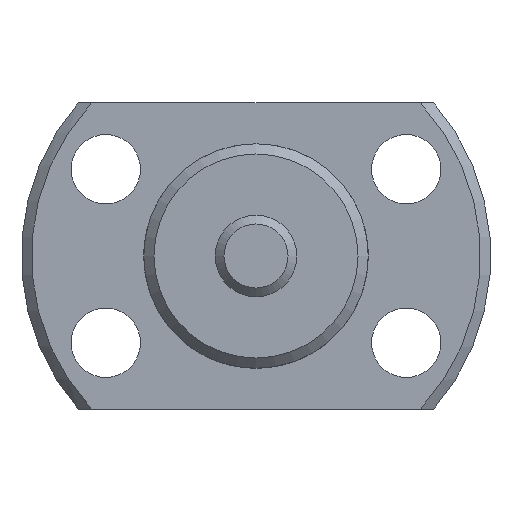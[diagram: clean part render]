
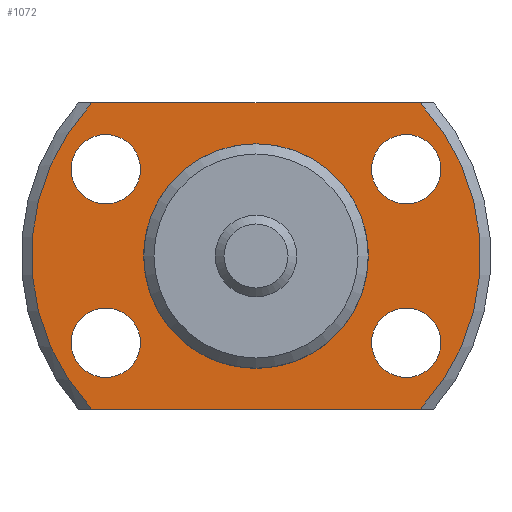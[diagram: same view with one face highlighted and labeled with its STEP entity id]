
A CAD part, left-side view. The second image highlights one B-rep face of the part: STEP entity #1072.
In plain terms, the highlighted planar face has unit normal (-1, 0, 0) as drawn and (1, 0, 0) by its records, which use the part's own axes.
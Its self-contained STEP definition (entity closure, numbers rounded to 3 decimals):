
#85=LINE('',#1852,#151);
#86=LINE('',#1854,#152);
#151=VECTOR('',#1493,1000.);
#152=VECTOR('',#1494,1000.);
#350=ORIENTED_EDGE('',*,*,#592,.T.);
#351=ORIENTED_EDGE('',*,*,#574,.T.);
#352=ORIENTED_EDGE('',*,*,#593,.T.);
#353=ORIENTED_EDGE('',*,*,#594,.T.);
#354=ORIENTED_EDGE('',*,*,#595,.F.);
#355=ORIENTED_EDGE('',*,*,#596,.F.);
#356=ORIENTED_EDGE('',*,*,#597,.F.);
#357=ORIENTED_EDGE('',*,*,#598,.F.);
#358=ORIENTED_EDGE('',*,*,#567,.F.);
#567=EDGE_CURVE('',#695,#695,#771,.T.);
#574=EDGE_CURVE('',#699,#701,#774,.T.);
#592=EDGE_CURVE('',#717,#699,#85,.T.);
#593=EDGE_CURVE('',#701,#718,#86,.T.);
#594=EDGE_CURVE('',#718,#717,#786,.T.);
#595=EDGE_CURVE('',#719,#719,#787,.T.);
#596=EDGE_CURVE('',#720,#720,#788,.T.);
#597=EDGE_CURVE('',#721,#721,#789,.T.);
#598=EDGE_CURVE('',#722,#722,#790,.T.);
#695=VERTEX_POINT('',#1786);
#699=VERTEX_POINT('',#1798);
#701=VERTEX_POINT('',#1805);
#717=VERTEX_POINT('',#1853);
#718=VERTEX_POINT('',#1855);
#719=VERTEX_POINT('',#1858);
#720=VERTEX_POINT('',#1860);
#721=VERTEX_POINT('',#1862);
#722=VERTEX_POINT('',#1864);
#771=CIRCLE('',#1197,5.3);
#774=CIRCLE('',#1201,11.);
#786=CIRCLE('',#1220,11.);
#787=CIRCLE('',#1221,1.7);
#788=CIRCLE('',#1222,1.7);
#789=CIRCLE('',#1223,1.7);
#790=CIRCLE('',#1224,1.7);
#860=EDGE_LOOP('',(#350,#351,#352,#353));
#861=EDGE_LOOP('',(#354));
#862=EDGE_LOOP('',(#355));
#863=EDGE_LOOP('',(#356));
#864=EDGE_LOOP('',(#357));
#865=EDGE_LOOP('',(#358));
#962=FACE_BOUND('',#860,.T.);
#963=FACE_BOUND('',#861,.T.);
#964=FACE_BOUND('',#862,.T.);
#965=FACE_BOUND('',#863,.T.);
#966=FACE_BOUND('',#864,.T.);
#967=FACE_BOUND('',#865,.T.);
#1018=PLANE('',#1219);
#1072=ADVANCED_FACE('',(#962,#963,#964,#965,#966,#967),#1018,.T.);
#1197=AXIS2_PLACEMENT_3D('',#1785,#1441,#1442);
#1201=AXIS2_PLACEMENT_3D('',#1806,#1451,#1452);
#1219=AXIS2_PLACEMENT_3D('',#1851,#1491,#1492);
#1220=AXIS2_PLACEMENT_3D('',#1856,#1495,#1496);
#1221=AXIS2_PLACEMENT_3D('',#1857,#1497,#1498);
#1222=AXIS2_PLACEMENT_3D('',#1859,#1499,#1500);
#1223=AXIS2_PLACEMENT_3D('',#1861,#1501,#1502);
#1224=AXIS2_PLACEMENT_3D('',#1863,#1503,#1504);
#1441=DIRECTION('',(1.,0.,0.));
#1442=DIRECTION('',(0.,0.,-1.));
#1451=DIRECTION('',(1.,0.,0.));
#1452=DIRECTION('',(0.,0.,-1.));
#1491=DIRECTION('',(1.,0.,0.));
#1492=DIRECTION('',(0.,0.,-1.));
#1493=DIRECTION('',(0.,-1.,0.));
#1494=DIRECTION('',(0.,1.,0.));
#1495=DIRECTION('',(1.,0.,0.));
#1496=DIRECTION('',(0.,0.,-1.));
#1497=DIRECTION('',(1.,0.,0.));
#1498=DIRECTION('',(0.,0.,-1.));
#1499=DIRECTION('',(1.,0.,0.));
#1500=DIRECTION('',(0.,0.,-1.));
#1501=DIRECTION('',(1.,0.,0.));
#1502=DIRECTION('',(0.,0.,-1.));
#1503=DIRECTION('',(1.,0.,0.));
#1504=DIRECTION('',(0.,0.,-1.));
#1785=CARTESIAN_POINT('',(4.,0.,0.));
#1786=CARTESIAN_POINT('',(4.,0.,-5.3));
#1798=CARTESIAN_POINT('',(4.,-8.047,7.5));
#1805=CARTESIAN_POINT('',(4.,-8.047,-7.5));
#1806=CARTESIAN_POINT('',(4.,0.,0.));
#1851=CARTESIAN_POINT('',(4.,5.3,0.));
#1852=CARTESIAN_POINT('',(4.,11.5,7.5));
#1853=CARTESIAN_POINT('',(4.,8.047,7.5));
#1854=CARTESIAN_POINT('',(4.,-11.5,-7.5));
#1855=CARTESIAN_POINT('',(4.,8.047,-7.5));
#1856=CARTESIAN_POINT('',(4.,0.,0.));
#1857=CARTESIAN_POINT('',(4.,7.361,4.25));
#1858=CARTESIAN_POINT('',(4.,7.361,2.55));
#1859=CARTESIAN_POINT('',(4.,-7.361,4.25));
#1860=CARTESIAN_POINT('',(4.,-7.361,2.55));
#1861=CARTESIAN_POINT('',(4.,-7.361,-4.25));
#1862=CARTESIAN_POINT('',(4.,-7.361,-5.95));
#1863=CARTESIAN_POINT('',(4.,7.361,-4.25));
#1864=CARTESIAN_POINT('',(4.,7.361,-5.95));
